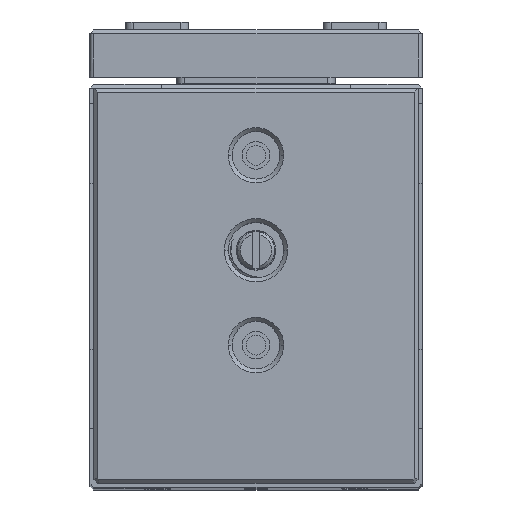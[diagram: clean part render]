
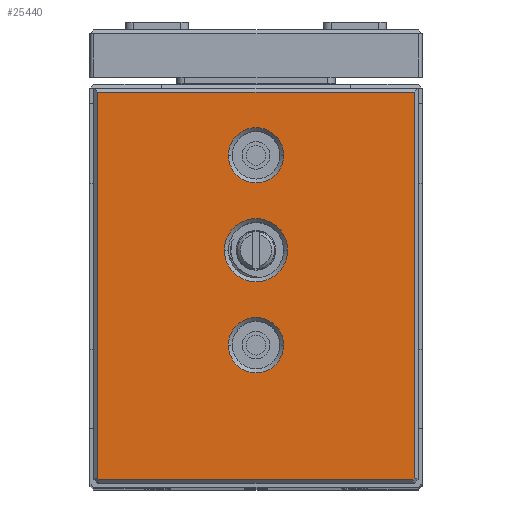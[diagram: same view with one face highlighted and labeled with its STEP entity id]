
A CAD part, top view. The second image highlights one B-rep face of the part: STEP entity #25440.
In plain terms, the highlighted planar face has unit normal (0, 0, 1) as drawn and (0, 0, -1) by its records, which use the part's own axes.
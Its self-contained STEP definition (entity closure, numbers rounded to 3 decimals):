
#293 = EDGE_CURVE ( 'NONE', #18127, #37584, #21403, .T. ) ;
#502 = PLANE ( 'NONE',  #18655 ) ;
#787 = VERTEX_POINT ( 'NONE', #34947 ) ;
#1617 = DIRECTION ( 'NONE',  ( 0., 0., 1. ) ) ;
#1975 = CARTESIAN_POINT ( 'NONE',  ( 40.5, 0.5, 0. ) ) ;
#2466 = LINE ( 'NONE', #1975, #30232 ) ;
#3099 = EDGE_LOOP ( 'NONE', ( #28702, #31570, #43898, #30239, #36080, #45716 ) ) ;
#3300 = CARTESIAN_POINT ( 'NONE',  ( 0.5, 0.707, 0. ) ) ;
#3783 = FACE_OUTER_BOUND ( 'NONE', #3099, .T. ) ;
#4754 = AXIS2_PLACEMENT_3D ( 'NONE', #40016, #27919, #31452 ) ;
#6903 = CARTESIAN_POINT ( 'NONE',  ( 16.5, 29.5, 0. ) ) ;
#7133 = DIRECTION ( 'NONE',  ( 0., 0., 1. ) ) ;
#7308 = VECTOR ( 'NONE', #12592, 1000. ) ;
#8583 = EDGE_LOOP ( 'NONE', ( #18672, #29050 ) ) ;
#9041 = CARTESIAN_POINT ( 'NONE',  ( 40.146, 0.354, 0. ) ) ;
#9120 = EDGE_CURVE ( 'NONE', #11330, #26920, #49954, .T. ) ;
#9166 = AXIS2_PLACEMENT_3D ( 'NONE', #20820, #1617, #32431 ) ;
#9785 = CARTESIAN_POINT ( 'NONE',  ( 24., 17.5, 0. ) ) ;
#10705 = CARTESIAN_POINT ( 'NONE',  ( 20.5, 17.5, 0. ) ) ;
#10708 = DIRECTION ( 'NONE',  ( -1., 0., 0. ) ) ;
#10816 = CIRCLE ( 'NONE', #30959, 3.5 ) ;
#10849 = CARTESIAN_POINT ( 'NONE',  ( 20.5, 17.5, 0. ) ) ;
#11330 = VERTEX_POINT ( 'NONE', #23136 ) ;
#11718 = EDGE_CURVE ( 'NONE', #26920, #19126, #12160, .T. ) ;
#11726 = ORIENTED_EDGE ( 'NONE', *, *, #19787, .T. ) ;
#12118 = VERTEX_POINT ( 'NONE', #49956 ) ;
#12160 = LINE ( 'NONE', #39666, #20210 ) ;
#12436 = EDGE_CURVE ( 'NONE', #19126, #47511, #16383, .T. ) ;
#12592 = DIRECTION ( 'NONE',  ( 1., 0., 0. ) ) ;
#14167 = CARTESIAN_POINT ( 'NONE',  ( 40.5, 49.5, 0. ) ) ;
#16383 = LINE ( 'NONE', #31792, #7308 ) ;
#16410 = FACE_BOUND ( 'NONE', #8583, .T. ) ;
#18127 = VERTEX_POINT ( 'NONE', #41617 ) ;
#18655 = AXIS2_PLACEMENT_3D ( 'NONE', #26771, #31314, #30810 ) ;
#18672 = ORIENTED_EDGE ( 'NONE', *, *, #29871, .T. ) ;
#18739 = VERTEX_POINT ( 'NONE', #30705 ) ;
#19126 = VERTEX_POINT ( 'NONE', #28898 ) ;
#19158 = DIRECTION ( 'NONE',  ( -0.707, 0.707, 0. ) ) ;
#19413 = CARTESIAN_POINT ( 'NONE',  ( 0.354, 0.854, 0. ) ) ;
#19787 = EDGE_CURVE ( 'NONE', #30291, #29434, #33510, .T. ) ;
#20210 = VECTOR ( 'NONE', #27300, 1000. ) ;
#20594 = EDGE_CURVE ( 'NONE', #18739, #40719, #45653, .T. ) ;
#20820 = CARTESIAN_POINT ( 'NONE',  ( 20.5, 29.5, 0. ) ) ;
#21403 = LINE ( 'NONE', #9041, #31950 ) ;
#22059 = CARTESIAN_POINT ( 'NONE',  ( 20.5, 41.5, 0. ) ) ;
#22256 = DIRECTION ( 'NONE',  ( 0., 0., 1. ) ) ;
#22303 = DIRECTION ( 'NONE',  ( -1., 0., 0. ) ) ;
#23136 = CARTESIAN_POINT ( 'NONE',  ( 0.707, 0.5, 0. ) ) ;
#23551 = EDGE_LOOP ( 'NONE', ( #11726, #33402 ) ) ;
#24669 = AXIS2_PLACEMENT_3D ( 'NONE', #10849, #34062, #49462 ) ;
#24704 = DIRECTION ( 'NONE',  ( 0., -1., 0. ) ) ;
#25437 = DIRECTION ( 'NONE',  ( -0.707, -0.707, 0. ) ) ;
#25440 = ADVANCED_FACE ( 'NONE', ( #3783, #35088, #39135, #16410 ), #502, .T. ) ;
#26050 = CARTESIAN_POINT ( 'NONE',  ( 20.5, 29.5, 0. ) ) ;
#26094 = DIRECTION ( 'NONE',  ( 0., 0., 1. ) ) ;
#26096 = CIRCLE ( 'NONE', #9166, 4. ) ;
#26292 = EDGE_CURVE ( 'NONE', #787, #12118, #45275, .T. ) ;
#26532 = CIRCLE ( 'NONE', #4754, 3.5 ) ;
#26771 = CARTESIAN_POINT ( 'NONE',  ( 0., 0., 0. ) ) ;
#26920 = VERTEX_POINT ( 'NONE', #3300 ) ;
#27300 = DIRECTION ( 'NONE',  ( 0., 1., 0. ) ) ;
#27919 = DIRECTION ( 'NONE',  ( 0., 0., 1. ) ) ;
#28158 = LINE ( 'NONE', #43556, #48099 ) ;
#28410 = DIRECTION ( 'NONE',  ( -1., 0., 0. ) ) ;
#28702 = ORIENTED_EDGE ( 'NONE', *, *, #11718, .T. ) ;
#28898 = CARTESIAN_POINT ( 'NONE',  ( 0.5, 49.5, 0. ) ) ;
#29050 = ORIENTED_EDGE ( 'NONE', *, *, #26292, .T. ) ;
#29434 = VERTEX_POINT ( 'NONE', #9785 ) ;
#29871 = EDGE_CURVE ( 'NONE', #12118, #787, #26532, .T. ) ;
#30232 = VECTOR ( 'NONE', #24704, 1000. ) ;
#30239 = ORIENTED_EDGE ( 'NONE', *, *, #293, .T. ) ;
#30291 = VERTEX_POINT ( 'NONE', #44178 ) ;
#30705 = CARTESIAN_POINT ( 'NONE',  ( 24.5, 29.5, 0. ) ) ;
#30810 = DIRECTION ( 'NONE',  ( -1., 0., 0. ) ) ;
#30959 = AXIS2_PLACEMENT_3D ( 'NONE', #10705, #26094, #22303 ) ;
#31314 = DIRECTION ( 'NONE',  ( 0., 0., -1. ) ) ;
#31452 = DIRECTION ( 'NONE',  ( -1., 0., 0. ) ) ;
#31570 = ORIENTED_EDGE ( 'NONE', *, *, #12436, .T. ) ;
#31792 = CARTESIAN_POINT ( 'NONE',  ( 41., 49.5, 0. ) ) ;
#31950 = VECTOR ( 'NONE', #25437, 1000. ) ;
#32048 = CARTESIAN_POINT ( 'NONE',  ( 40.293, 0.5, 0. ) ) ;
#32431 = DIRECTION ( 'NONE',  ( -1., 0., 0. ) ) ;
#33402 = ORIENTED_EDGE ( 'NONE', *, *, #40746, .T. ) ;
#33510 = CIRCLE ( 'NONE', #24669, 3.5 ) ;
#33953 = ORIENTED_EDGE ( 'NONE', *, *, #40238, .T. ) ;
#34062 = DIRECTION ( 'NONE',  ( 0., 0., 1. ) ) ;
#34628 = ORIENTED_EDGE ( 'NONE', *, *, #20594, .T. ) ;
#34947 = CARTESIAN_POINT ( 'NONE',  ( 24., 41.5, 0. ) ) ;
#35088 = FACE_BOUND ( 'NONE', #40545, .T. ) ;
#35567 = EDGE_CURVE ( 'NONE', #37584, #11330, #28158, .T. ) ;
#36080 = ORIENTED_EDGE ( 'NONE', *, *, #35567, .T. ) ;
#37584 = VERTEX_POINT ( 'NONE', #32048 ) ;
#37657 = DIRECTION ( 'NONE',  ( -1., 0., 0. ) ) ;
#39135 = FACE_BOUND ( 'NONE', #23551, .T. ) ;
#39666 = CARTESIAN_POINT ( 'NONE',  ( 0.5, 50., 0. ) ) ;
#40016 = CARTESIAN_POINT ( 'NONE',  ( 20.5, 41.5, 0. ) ) ;
#40238 = EDGE_CURVE ( 'NONE', #40719, #18739, #26096, .T. ) ;
#40545 = EDGE_LOOP ( 'NONE', ( #33953, #34628 ) ) ;
#40719 = VERTEX_POINT ( 'NONE', #6903 ) ;
#40746 = EDGE_CURVE ( 'NONE', #29434, #30291, #10816, .T. ) ;
#41617 = CARTESIAN_POINT ( 'NONE',  ( 40.5, 0.707, 0. ) ) ;
#42005 = VECTOR ( 'NONE', #19158, 1000. ) ;
#42014 = EDGE_CURVE ( 'NONE', #47511, #18127, #2466, .T. ) ;
#42062 = AXIS2_PLACEMENT_3D ( 'NONE', #22059, #7133, #10708 ) ;
#43556 = CARTESIAN_POINT ( 'NONE',  ( 0.5, 0.5, 0. ) ) ;
#43898 = ORIENTED_EDGE ( 'NONE', *, *, #42014, .T. ) ;
#44178 = CARTESIAN_POINT ( 'NONE',  ( 17., 17.5, 0. ) ) ;
#45275 = CIRCLE ( 'NONE', #42062, 3.5 ) ;
#45653 = CIRCLE ( 'NONE', #46465, 4. ) ;
#45716 = ORIENTED_EDGE ( 'NONE', *, *, #9120, .T. ) ;
#46465 = AXIS2_PLACEMENT_3D ( 'NONE', #26050, #22256, #37657 ) ;
#47511 = VERTEX_POINT ( 'NONE', #14167 ) ;
#48099 = VECTOR ( 'NONE', #28410, 1000. ) ;
#49462 = DIRECTION ( 'NONE',  ( -1., 0., 0. ) ) ;
#49954 = LINE ( 'NONE', #19413, #42005 ) ;
#49956 = CARTESIAN_POINT ( 'NONE',  ( 17., 41.5, 0. ) ) ;
